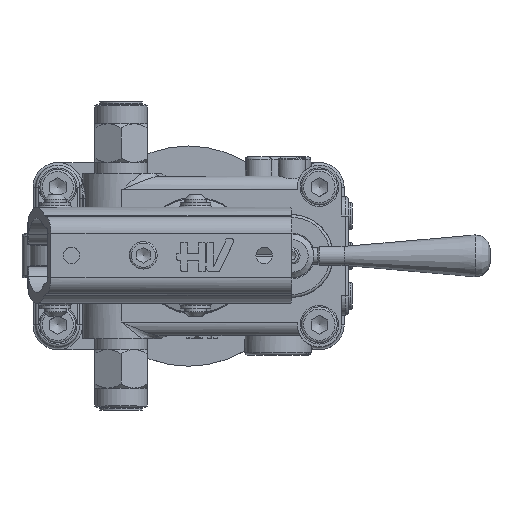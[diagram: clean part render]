
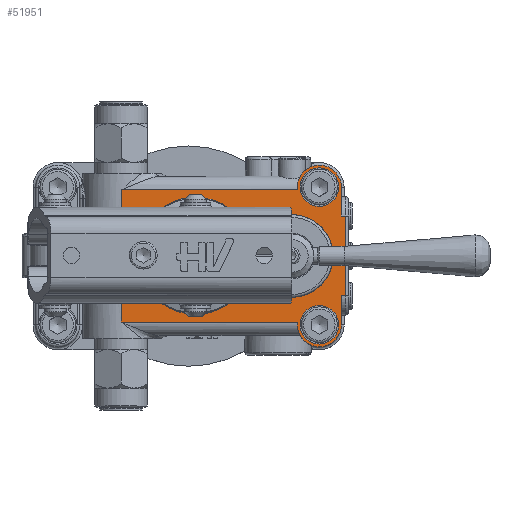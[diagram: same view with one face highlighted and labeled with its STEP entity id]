
A CAD part, top view. The second image highlights one B-rep face of the part: STEP entity #51951.
In plain terms, the highlighted planar face has unit normal (0, 0, 1).
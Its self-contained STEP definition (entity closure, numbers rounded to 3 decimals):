
#22233=CARTESIAN_POINT('',(71.783,19.941,43.));
#22234=VERTEX_POINT('',#22233);
#22235=CARTESIAN_POINT('',(59.0,34.,43.));
#22236=DIRECTION('',(0.,0.,1.0));
#22237=DIRECTION('',(-0.673,0.74,0.));
#22238=AXIS2_PLACEMENT_3D('',#22235,#22236,#22237);
#22239=CIRCLE('',#22238,19.002);
#22240=EDGE_CURVE('',#22234,#22234,#22239,.T.);
#43504=CARTESIAN_POINT('',(96.,58.,43.));
#43505=VERTEX_POINT('',#43504);
#43513=CARTESIAN_POINT('',(96.,59.,43.));
#43514=VERTEX_POINT('',#43513);
#43515=CARTESIAN_POINT('',(96.,58.,43.));
#43516=DIRECTION('',(0.0,1.0,0.0));
#43517=VECTOR('',#43516,1.);
#43518=LINE('',#43515,#43517);
#43519=EDGE_CURVE('',#43505,#43514,#43518,.T.);
#43535=CARTESIAN_POINT('',(96.0,10.0,43.));
#43536=VERTEX_POINT('',#43535);
#43546=CARTESIAN_POINT('',(96.0,9.,43.));
#43547=VERTEX_POINT('',#43546);
#43554=CARTESIAN_POINT('',(96.,9.,43.));
#43555=DIRECTION('',(0.0,1.0,0.0));
#43556=VECTOR('',#43555,1.);
#43557=LINE('',#43554,#43556);
#43558=EDGE_CURVE('',#43547,#43536,#43557,.T.);
#43717=CARTESIAN_POINT('',(32.,44.122,43.));
#43718=VERTEX_POINT('',#43717);
#43767=CARTESIAN_POINT('',(33.732,41.0,43.));
#43768=VERTEX_POINT('',#43767);
#43776=CARTESIAN_POINT('',(33.732,41.0,43.));
#43777=CARTESIAN_POINT('',(33.732,41.528,43.));
#43778=CARTESIAN_POINT('',(33.438,42.767,43.));
#43779=CARTESIAN_POINT('',(32.582,43.719,43.));
#43780=CARTESIAN_POINT('',(32.,44.122,43.));
#43781=B_SPLINE_CURVE_WITH_KNOTS('',3,(#43776,#43777,#43778,#43779,#43780),.UNSPECIFIED.,.F.,.U.,(4,1,4),(2.696,2.855,3.066),.UNSPECIFIED.);
#43782=EDGE_CURVE('',#43768,#43718,#43781,.T.);
#43794=CARTESIAN_POINT('',(33.732,27.,43.));
#43795=VERTEX_POINT('',#43794);
#43803=CARTESIAN_POINT('',(33.732,27.,43.));
#43804=DIRECTION('',(0.0,1.0,0.0));
#43805=VECTOR('',#43804,14.);
#43806=LINE('',#43803,#43805);
#43807=EDGE_CURVE('',#43795,#43768,#43806,.T.);
#43840=CARTESIAN_POINT('',(32.,23.878,43.));
#43841=VERTEX_POINT('',#43840);
#43849=CARTESIAN_POINT('',(32.,23.878,43.));
#43850=CARTESIAN_POINT('',(32.433,24.178,43.));
#43851=CARTESIAN_POINT('',(33.336,25.067,43.));
#43852=CARTESIAN_POINT('',(33.732,26.29,43.0));
#43853=CARTESIAN_POINT('',(33.732,27.,43.));
#43854=B_SPLINE_CURVE_WITH_KNOTS('',3,(#43849,#43850,#43851,#43852,#43853),.UNSPECIFIED.,.F.,.U.,(4,1,4),(2.696,2.854,3.065),.UNSPECIFIED.);
#43855=EDGE_CURVE('',#43841,#43795,#43854,.T.);
#44525=CARTESIAN_POINT('',(112.0,59.,43.));
#44526=VERTEX_POINT('',#44525);
#44533=CARTESIAN_POINT('',(112.,48.5,43.));
#44534=VERTEX_POINT('',#44533);
#44535=CARTESIAN_POINT('',(112.0,59.,43.));
#44536=DIRECTION('',(0.0,-1.0,0.0));
#44537=VECTOR('',#44536,10.5);
#44538=LINE('',#44535,#44537);
#44539=EDGE_CURVE('',#44526,#44534,#44538,.T.);
#44654=CARTESIAN_POINT('',(112.0,19.5,43.));
#44655=VERTEX_POINT('',#44654);
#44663=CARTESIAN_POINT('',(112.,9.,43.));
#44664=VERTEX_POINT('',#44663);
#44665=CARTESIAN_POINT('',(112.,19.5,43.));
#44666=DIRECTION('',(0.0,-1.0,0.0));
#44667=VECTOR('',#44666,10.5);
#44668=LINE('',#44665,#44667);
#44669=EDGE_CURVE('',#44655,#44664,#44668,.T.);
#45001=CARTESIAN_POINT('',(113.5,48.5,43.));
#45002=VERTEX_POINT('',#45001);
#45012=CARTESIAN_POINT('',(112.,48.5,43.));
#45013=DIRECTION('',(1.0,0.0,0.0));
#45014=VECTOR('',#45013,1.5);
#45015=LINE('',#45012,#45014);
#45016=EDGE_CURVE('',#44534,#45002,#45015,.T.);
#45026=CARTESIAN_POINT('',(113.5,19.5,43.));
#45027=VERTEX_POINT('',#45026);
#45037=CARTESIAN_POINT('',(112.0,19.5,43.));
#45038=DIRECTION('',(1.0,0.0,0.0));
#45039=VECTOR('',#45038,1.5);
#45040=LINE('',#45037,#45039);
#45041=EDGE_CURVE('',#44655,#45027,#45040,.T.);
#45321=CARTESIAN_POINT('',(113.5,48.5,43.));
#45322=DIRECTION('',(0.0,-1.0,0.0));
#45323=VECTOR('',#45322,29.);
#45324=LINE('',#45321,#45323);
#45325=EDGE_CURVE('',#45002,#45027,#45324,.T.);
#46769=CARTESIAN_POINT('',(32.,10.0,43.));
#46770=VERTEX_POINT('',#46769);
#46801=CARTESIAN_POINT('',(96.0,10.0,43.));
#46802=DIRECTION('',(-1.0,0.0,0.0));
#46803=VECTOR('',#46802,64.);
#46804=LINE('',#46801,#46803);
#46805=EDGE_CURVE('',#43536,#46770,#46804,.T.);
#47488=CARTESIAN_POINT('',(32.,58.,43.));
#47489=VERTEX_POINT('',#47488);
#48347=CARTESIAN_POINT('',(96.,58.,43.));
#48348=DIRECTION('',(-1.0,0.0,0.0));
#48349=VECTOR('',#48348,64.);
#48350=LINE('',#48347,#48349);
#48351=EDGE_CURVE('',#43505,#47489,#48350,.T.);
#48377=CARTESIAN_POINT('',(104.,59.,43.));
#48378=DIRECTION('',(0.0,0.0,-1.0));
#48379=DIRECTION('',(1.0,0.0,0.0));
#48380=AXIS2_PLACEMENT_3D('',#48377,#48378,#48379);
#48381=CIRCLE('',#48380,8.0);
#48382=EDGE_CURVE('',#43514,#44526,#48381,.T.);
#48766=CARTESIAN_POINT('',(83.0,44.198,43.));
#48767=VERTEX_POINT('',#48766);
#48775=CARTESIAN_POINT('',(83.0,23.802,43.));
#48776=VERTEX_POINT('',#48775);
#48777=CARTESIAN_POINT('',(83.0,23.802,43.));
#48778=DIRECTION('',(0.0,1.0,0.0));
#48779=VECTOR('',#48778,20.396);
#48780=LINE('',#48777,#48779);
#48781=EDGE_CURVE('',#48776,#48767,#48780,.T.);
#48835=CARTESIAN_POINT('',(94.,34.0,43.));
#48836=DIRECTION('',(0.0,0.0,-1.0));
#48837=DIRECTION('',(-1.0,0.0,0.0));
#48838=AXIS2_PLACEMENT_3D('',#48835,#48836,#48837);
#48839=CIRCLE('',#48838,15.0);
#48840=EDGE_CURVE('',#48767,#48776,#48839,.T.);
#48879=CARTESIAN_POINT('',(104.0,9.,43.));
#48880=DIRECTION('',(0.0,0.0,-1.0));
#48881=DIRECTION('',(-1.0,0.0,0.0));
#48882=AXIS2_PLACEMENT_3D('',#48879,#48880,#48881);
#48883=CIRCLE('',#48882,8.0);
#48884=EDGE_CURVE('',#44664,#43547,#48883,.T.);
#49648=CARTESIAN_POINT('',(111.0,9.,43.));
#49649=VERTEX_POINT('',#49648);
#49650=CARTESIAN_POINT('',(104.0,9.,43.));
#49651=DIRECTION('',(0.0,0.0,-1.0));
#49652=DIRECTION('',(1.0,0.0,0.0));
#49653=AXIS2_PLACEMENT_3D('',#49650,#49651,#49652);
#49654=CIRCLE('',#49653,7.);
#49655=EDGE_CURVE('',#49649,#49649,#49654,.T.);
#49676=CARTESIAN_POINT('',(111.,59.,43.));
#49677=VERTEX_POINT('',#49676);
#49678=CARTESIAN_POINT('',(104.,59.,43.));
#49679=DIRECTION('',(0.0,0.0,-1.0));
#49680=DIRECTION('',(1.0,0.0,0.0));
#49681=AXIS2_PLACEMENT_3D('',#49678,#49679,#49680);
#49682=CIRCLE('',#49681,7.);
#49683=EDGE_CURVE('',#49677,#49677,#49682,.T.);
#50548=CARTESIAN_POINT('',(32.0,44.122,43.0));
#50549=DIRECTION('',(0.0,1.0,0.0));
#50550=VECTOR('',#50549,13.878);
#50551=LINE('',#50548,#50550);
#50552=EDGE_CURVE('',#43718,#47489,#50551,.T.);
#50741=CARTESIAN_POINT('',(32.0,10.,43.0));
#50742=DIRECTION('',(0.0,1.0,0.0));
#50743=VECTOR('',#50742,13.878);
#50744=LINE('',#50741,#50743);
#50745=EDGE_CURVE('',#46770,#43841,#50744,.T.);
#51915=CARTESIAN_POINT('',(104.,34.,43.));
#51916=DIRECTION('',(0.0,0.0,1.0));
#51917=DIRECTION('',(1.0,0.0,0.0));
#51918=AXIS2_PLACEMENT_3D('',#51915,#51916,#51917);
#51919=PLANE('',#51918);
#51920=ORIENTED_EDGE('',*,*,#45325,.F.);
#51921=ORIENTED_EDGE('',*,*,#45016,.F.);
#51922=ORIENTED_EDGE('',*,*,#44539,.F.);
#51923=ORIENTED_EDGE('',*,*,#48382,.F.);
#51924=ORIENTED_EDGE('',*,*,#43519,.F.);
#51925=ORIENTED_EDGE('',*,*,#48351,.T.);
#51926=ORIENTED_EDGE('',*,*,#50552,.F.);
#51927=ORIENTED_EDGE('',*,*,#43782,.F.);
#51928=ORIENTED_EDGE('',*,*,#43807,.F.);
#51929=ORIENTED_EDGE('',*,*,#43855,.F.);
#51930=ORIENTED_EDGE('',*,*,#50745,.F.);
#51931=ORIENTED_EDGE('',*,*,#46805,.F.);
#51932=ORIENTED_EDGE('',*,*,#43558,.F.);
#51933=ORIENTED_EDGE('',*,*,#48884,.F.);
#51934=ORIENTED_EDGE('',*,*,#44669,.F.);
#51935=ORIENTED_EDGE('',*,*,#45041,.T.);
#51936=EDGE_LOOP('',(#51920,#51921,#51922,#51923,#51924,#51925,#51926,#51927,#51928,#51929,#51930,#51931,#51932,#51933,#51934,#51935));
#51937=FACE_OUTER_BOUND('',#51936,.T.);
#51938=ORIENTED_EDGE('',*,*,#48840,.T.);
#51939=ORIENTED_EDGE('',*,*,#48781,.T.);
#51940=EDGE_LOOP('',(#51938,#51939));
#51941=FACE_BOUND('',#51940,.T.);
#51942=ORIENTED_EDGE('',*,*,#49655,.T.);
#51943=EDGE_LOOP('',(#51942));
#51944=FACE_BOUND('',#51943,.T.);
#51945=ORIENTED_EDGE('',*,*,#49683,.T.);
#51946=EDGE_LOOP('',(#51945));
#51947=FACE_BOUND('',#51946,.T.);
#51948=ORIENTED_EDGE('',*,*,#22240,.F.);
#51949=EDGE_LOOP('',(#51948));
#51950=FACE_BOUND('',#51949,.T.);
#51951=ADVANCED_FACE('',(#51937,#51941,#51944,#51947,#51950),#51919,.T.);
